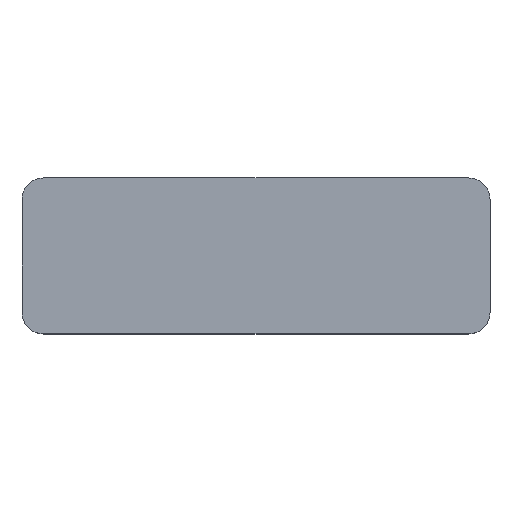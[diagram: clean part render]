
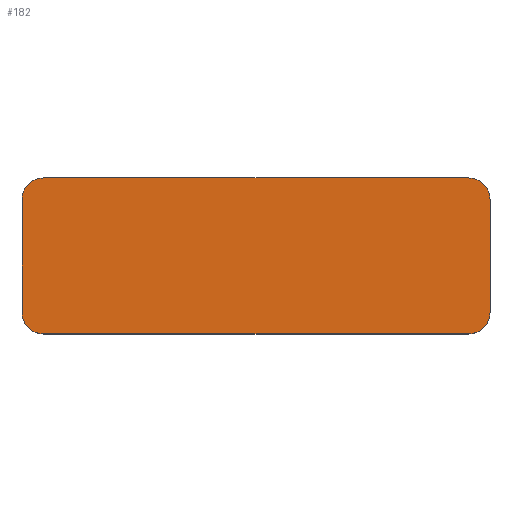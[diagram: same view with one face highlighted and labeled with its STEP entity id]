
A CAD part, top view. The second image highlights one B-rep face of the part: STEP entity #182.
In plain terms, the highlighted planar face has unit normal (0, 0, 1).
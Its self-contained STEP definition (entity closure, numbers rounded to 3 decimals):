
#16=CIRCLE('',#200,0.5);
#18=CIRCLE('',#204,0.5);
#20=CIRCLE('',#208,0.5);
#22=CIRCLE('',#212,0.5);
#36=FACE_OUTER_BOUND('',#46,.T.);
#46=EDGE_LOOP('',(#159,#160,#161,#162,#163,#164,#165,#166));
#48=LINE('',#275,#64);
#54=LINE('',#290,#70);
#58=LINE('',#302,#74);
#61=LINE('',#313,#77);
#64=VECTOR('',#220,1.);
#70=VECTOR('',#234,1.);
#74=VECTOR('',#246,1.);
#77=VECTOR('',#257,1.);
#80=VERTEX_POINT('',#272);
#81=VERTEX_POINT('',#274);
#84=VERTEX_POINT('',#282);
#86=VERTEX_POINT('',#288);
#88=VERTEX_POINT('',#294);
#90=VERTEX_POINT('',#300);
#92=VERTEX_POINT('',#306);
#94=VERTEX_POINT('',#311);
#96=EDGE_CURVE('',#80,#81,#48,.T.);
#101=EDGE_CURVE('',#80,#84,#16,.T.);
#104=EDGE_CURVE('',#84,#86,#54,.T.);
#107=EDGE_CURVE('',#86,#88,#18,.T.);
#110=EDGE_CURVE('',#88,#90,#58,.T.);
#113=EDGE_CURVE('',#90,#92,#20,.T.);
#115=EDGE_CURVE('',#94,#92,#61,.T.);
#118=EDGE_CURVE('',#94,#81,#22,.T.);
#159=ORIENTED_EDGE('',*,*,#96,.F.);
#160=ORIENTED_EDGE('',*,*,#101,.T.);
#161=ORIENTED_EDGE('',*,*,#104,.T.);
#162=ORIENTED_EDGE('',*,*,#107,.T.);
#163=ORIENTED_EDGE('',*,*,#110,.T.);
#164=ORIENTED_EDGE('',*,*,#113,.T.);
#165=ORIENTED_EDGE('',*,*,#115,.F.);
#166=ORIENTED_EDGE('',*,*,#118,.T.);
#172=PLANE('',#214);
#182=ADVANCED_FACE('',(#36),#172,.T.);
#200=AXIS2_PLACEMENT_3D('',#284,#228,#229);
#204=AXIS2_PLACEMENT_3D('',#296,#240,#241);
#208=AXIS2_PLACEMENT_3D('',#308,#252,#253);
#212=AXIS2_PLACEMENT_3D('',#317,#263,#264);
#214=AXIS2_PLACEMENT_3D('',#319,#267,#268);
#220=DIRECTION('',(0.,1.,0.));
#228=DIRECTION('center_axis',(0.,0.,1.));
#229=DIRECTION('ref_axis',(1.,0.,0.));
#234=DIRECTION('',(1.,0.,0.));
#240=DIRECTION('center_axis',(0.,0.,1.));
#241=DIRECTION('ref_axis',(1.,0.,0.));
#246=DIRECTION('',(0.,1.,0.));
#252=DIRECTION('center_axis',(0.,0.,1.));
#253=DIRECTION('ref_axis',(1.,0.,0.));
#257=DIRECTION('',(1.,0.,0.));
#263=DIRECTION('center_axis',(0.,0.,1.));
#264=DIRECTION('ref_axis',(1.,0.,0.));
#267=DIRECTION('center_axis',(0.,0.,1.));
#268=DIRECTION('ref_axis',(1.,0.,0.));
#272=CARTESIAN_POINT('',(-5.4,16.7,-3.45));
#274=CARTESIAN_POINT('',(-5.4,19.3,-3.45));
#275=CARTESIAN_POINT('',(-5.4,18.,-3.45));
#282=CARTESIAN_POINT('',(-4.9,16.2,-3.45));
#284=CARTESIAN_POINT('Origin',(-4.9,16.7,-3.45));
#288=CARTESIAN_POINT('',(4.9,16.2,-3.45));
#290=CARTESIAN_POINT('',(0.,16.2,-3.45));
#294=CARTESIAN_POINT('',(5.4,16.7,-3.45));
#296=CARTESIAN_POINT('Origin',(4.9,16.7,-3.45));
#300=CARTESIAN_POINT('',(5.4,19.3,-3.45));
#302=CARTESIAN_POINT('',(5.4,18.,-3.45));
#306=CARTESIAN_POINT('',(4.9,19.8,-3.45));
#308=CARTESIAN_POINT('Origin',(4.9,19.3,-3.45));
#311=CARTESIAN_POINT('',(-4.9,19.8,-3.45));
#313=CARTESIAN_POINT('',(0.,19.8,-3.45));
#317=CARTESIAN_POINT('Origin',(-4.9,19.3,-3.45));
#319=CARTESIAN_POINT('Origin',(0.,18.,-3.45));
